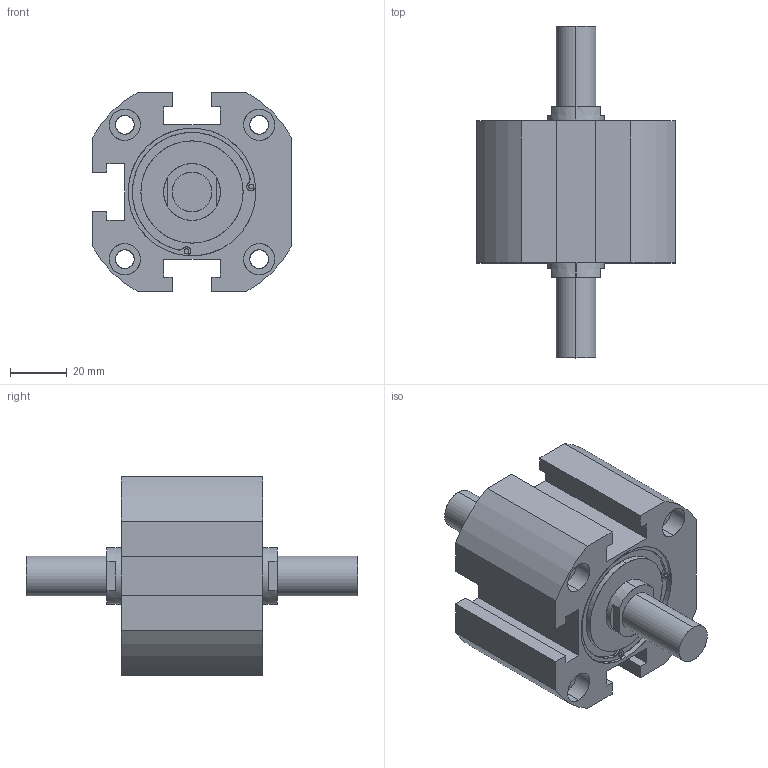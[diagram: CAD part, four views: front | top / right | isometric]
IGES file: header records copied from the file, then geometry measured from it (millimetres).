
Start section: SolidWorks IGES file using analytic representation for surfaces
Global section: file name: C:\Users\Toshiba\Desktop\XG#M7-50D-10.IGS; native system: SolidWorks 2014; preprocessor: SolidWorks 2014; author: Toshiba; date: 160524.102438; units: millimetre
Bounding box: 70 x 117 x 70 mm (x, y, z)
Surface area: 34682.6 mm2 (no closed solid volume)
Topology: 0 solids, 0 shells, 147 faces, 2766 edges, 2762 vertices
Faces by surface type: revolution 85, bspline 62
